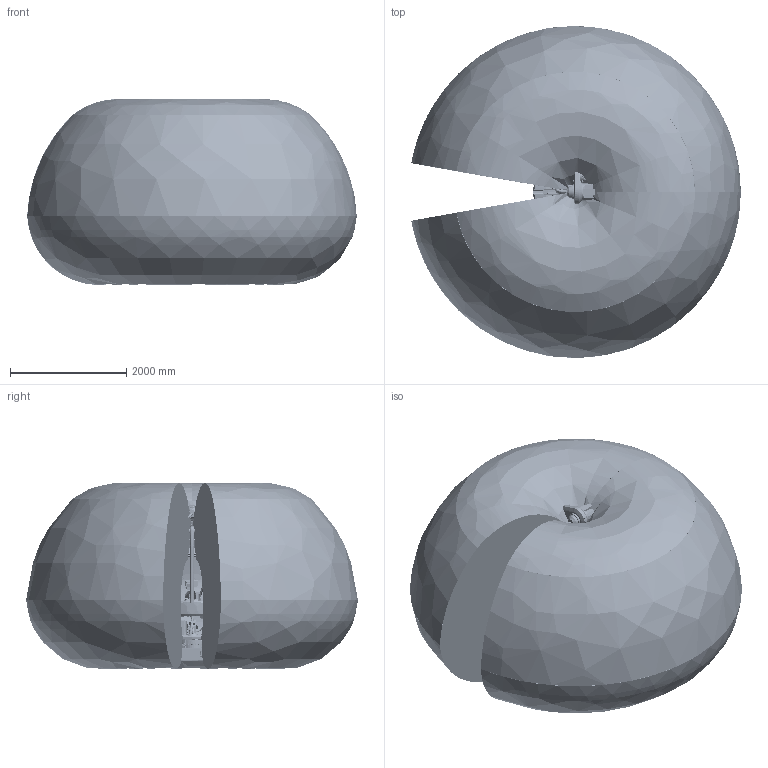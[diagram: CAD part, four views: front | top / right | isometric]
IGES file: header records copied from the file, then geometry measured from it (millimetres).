
Start section: SolidWorks IGES file using analytic representation for surfaces
Global section: file name: C:\Users\SEJAOLS6\OneDrive - ABB\Documents\SAP\7710\7710_Lightweight_models\IRB7710-LID-SW_400kg-285_OC_01_SW_J\IRB7710-LID-SW_400kg-285_OC_01_IGES_J\IRB7710-LID-SW_400kg-285_OC_01_ASM_CAD.igs; native system: SolidWorks 2024; preprocessor: SolidWorks 2024; author: SEJAOLS6; date: 260127.071640; units: millimetre
Bounding box: 5667.14 x 5709.66 x 3193.65 mm (x, y, z)
Surface area: 121290072.7 mm2 (no closed solid volume)
Topology: 0 solids, 0 shells, 10563 faces, 179752 edges, 179615 vertices
Faces by surface type: bspline 5937, revolution 4626
